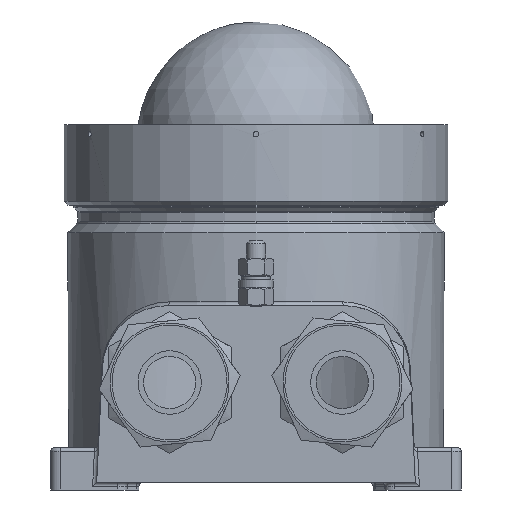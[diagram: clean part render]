
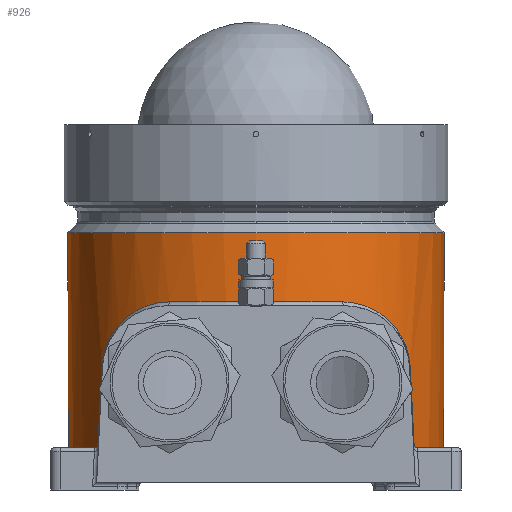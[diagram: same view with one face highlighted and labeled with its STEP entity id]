
A CAD part, left-side view. The second image highlights one B-rep face of the part: STEP entity #926.
In plain terms, the highlighted cylindrical face has radius 49 mm (diameter 98 mm), a full revolution.
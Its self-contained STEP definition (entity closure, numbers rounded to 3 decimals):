
#926=ADVANCED_FACE('',(#15641,#15643),#15645,.T.);
#15641=FACE_BOUND('',#15642,.T.);
#15642=EDGE_LOOP('',(#27664,#27665,#27666,#27667,#27668,#27669,#27670,#27671,#27672,
#27673,#27674));
#15643=FACE_OUTER_BOUND('',#15644,.T.);
#15644=EDGE_LOOP('',(#27675));
#15645=CYLINDRICAL_SURFACE('',#15646,49.);
#15646=AXIS2_PLACEMENT_3D('',#15647,#15648,#15649);
#15647=CARTESIAN_POINT('',(0.,0.,8.));
#15648=DIRECTION('',(0.,0.,1.));
#15649=DIRECTION('',(-1.,0.,0.));
#27664=ORIENTED_EDGE('',*,*,#35861,.F.);
#27665=ORIENTED_EDGE('',*,*,#35862,.T.);
#27666=ORIENTED_EDGE('',*,*,#35863,.F.);
#27667=ORIENTED_EDGE('',*,*,#35633,.F.);
#27668=ORIENTED_EDGE('',*,*,#35748,.F.);
#27669=ORIENTED_EDGE('',*,*,#35747,.F.);
#27670=ORIENTED_EDGE('',*,*,#35744,.F.);
#27671=ORIENTED_EDGE('',*,*,#35864,.F.);
#27672=ORIENTED_EDGE('',*,*,#35865,.T.);
#27673=ORIENTED_EDGE('',*,*,#35866,.F.);
#27674=ORIENTED_EDGE('',*,*,#35867,.T.);
#27675=ORIENTED_EDGE('',*,*,#35868,.T.);
#35633=EDGE_CURVE('',#39934,#39935,#39936,.T.);
#35744=EDGE_CURVE('',#40119,#40120,#40121,.T.);
#35747=EDGE_CURVE('',#40120,#40124,#40125,.F.);
#35748=EDGE_CURVE('',#40124,#39934,#40126,.F.);
#35861=EDGE_CURVE('',#40316,#40317,#40318,.F.);
#35862=EDGE_CURVE('',#40316,#40319,#40320,.T.);
#35863=EDGE_CURVE('',#39935,#40319,#40321,.F.);
#35864=EDGE_CURVE('',#40322,#40119,#40323,.F.);
#35865=EDGE_CURVE('',#40322,#40324,#40325,.T.);
#35866=EDGE_CURVE('',#40326,#40324,#40327,.F.);
#35867=EDGE_CURVE('',#40326,#40317,#40328,.T.);
#35868=EDGE_CURVE('',#40329,#40329,#40330,.F.);
#39934=VERTEX_POINT('',#47717);
#39935=VERTEX_POINT('',#47718);
#39936=B_SPLINE_CURVE_WITH_KNOTS('',3,
(#47719,#47720,#47721,#47722,#47723,#47724,#47725,#47726,#47727,#47728,#47729,#47730,
#47731,#47732,#47733,#47734,#47735,#47736,#47737,#47738,#47739),
.UNSPECIFIED.,.F.,.F.,
(4,1,1,1,1,1,1,1,1,1,1,1,1,1,1,1,1,1,4),
(0.,0.091,0.177,0.256,0.326,0.392,
0.455,0.516,0.573,0.628,0.678,
0.724,0.769,0.814,0.856,0.896,
0.938,0.972,1.),
.UNSPECIFIED.);
#40119=VERTEX_POINT('',#48641);
#40120=VERTEX_POINT('',#48642);
#40121=B_SPLINE_CURVE_WITH_KNOTS('',3,
(#48643,#48644,#48645,#48646,#48647,#48648,#48649,#48650,#48651,#48652,#48653,#48654,
#48655,#48656,#48657,#48658,#48659,#48660,#48661,#48662,#48663,#48664,#48665,#48666,
#48667,#48668,#48669),
.UNSPECIFIED.,.F.,.F.,
(4,1,1,1,1,1,1,1,1,1,1,1,1,1,1,1,1,1,1,1,1,1,1,1,4),
(0.,0.009,0.018,0.026,0.034,
0.045,0.061,0.084,0.114,0.152,
0.192,0.237,0.283,0.332,0.386,
0.442,0.504,0.569,0.637,0.708,
0.779,0.846,0.919,0.969,1.),
.UNSPECIFIED.);
#40124=VERTEX_POINT('',#48681);
#40125=CIRCLE('',#48682,49.);
#40126=CIRCLE('',#48686,49.);
#40316=VERTEX_POINT('',#49377);
#40317=VERTEX_POINT('',#49378);
#40318=CIRCLE('',#49379,49.);
#40319=VERTEX_POINT('',#49383);
#40320=CIRCLE('',#49384,49.);
#40321=(BOUNDED_CURVE()B_SPLINE_CURVE(3,
(#49388,#49389,#49390,#49391),
.UNSPECIFIED.,.F.,.F.)B_SPLINE_CURVE_WITH_KNOTS((4,4),
(0.,1.),
.UNSPECIFIED.)CURVE()GEOMETRIC_REPRESENTATION_ITEM()RATIONAL_B_SPLINE_CURVE((1.,
1.,1.,1.))REPRESENTATION_ITEM(''));
#40322=VERTEX_POINT('',#49392);
#40323=(BOUNDED_CURVE()B_SPLINE_CURVE(3,
(#49393,#49394,#49395,#49396),
.UNSPECIFIED.,.F.,.F.)B_SPLINE_CURVE_WITH_KNOTS((4,4),
(0.,1.),
.UNSPECIFIED.)CURVE()GEOMETRIC_REPRESENTATION_ITEM()RATIONAL_B_SPLINE_CURVE((1.,
1.,1.,1.))REPRESENTATION_ITEM(''));
#40324=VERTEX_POINT('',#49397);
#40325=CIRCLE('',#49398,49.);
#40326=VERTEX_POINT('',#49402);
#40327=CIRCLE('',#49403,49.);
#40328=CIRCLE('',#49407,49.);
#40329=VERTEX_POINT('',#49411);
#40330=CIRCLE('',#49412,49.);
#47717=CARTESIAN_POINT('',(-43.493,22.568,47.));
#47718=CARTESIAN_POINT('',(-28.037,40.186,29.899));
#47719=CARTESIAN_POINT('',(-43.493,22.568,47.));
#47720=CARTESIAN_POINT('',(-43.054,23.416,47.));
#47721=CARTESIAN_POINT('',(-42.151,25.037,46.879));
#47722=CARTESIAN_POINT('',(-40.74,27.264,46.397));
#47723=CARTESIAN_POINT('',(-39.377,29.19,45.722));
#47724=CARTESIAN_POINT('',(-38.089,30.846,44.927));
#47725=CARTESIAN_POINT('',(-36.872,32.289,44.051));
#47726=CARTESIAN_POINT('',(-35.702,33.576,43.095));
#47727=CARTESIAN_POINT('',(-34.586,34.721,42.076));
#47728=CARTESIAN_POINT('',(-33.534,35.737,41.006));
#47729=CARTESIAN_POINT('',(-32.569,36.617,39.915));
#47730=CARTESIAN_POINT('',(-31.705,37.365,38.827));
#47731=CARTESIAN_POINT('',(-30.93,38.009,37.734));
#47732=CARTESIAN_POINT('',(-30.23,38.566,36.618));
#47733=CARTESIAN_POINT('',(-29.605,39.048,35.461));
#47734=CARTESIAN_POINT('',(-29.076,39.443,34.293));
#47735=CARTESIAN_POINT('',(-28.639,39.76,33.094));
#47736=CARTESIAN_POINT('',(-28.322,39.986,31.927));
#47737=CARTESIAN_POINT('',(-28.127,40.124,30.85));
#47738=CARTESIAN_POINT('',(-28.057,40.172,30.193));
#47739=CARTESIAN_POINT('',(-28.037,40.186,29.899));
#48641=CARTESIAN_POINT('',(-28.037,-40.186,29.899));
#48642=CARTESIAN_POINT('',(-43.493,-22.568,47.));
#48643=CARTESIAN_POINT('',(-28.037,-40.186,29.899));
#48644=CARTESIAN_POINT('',(-28.047,-40.179,29.999));
#48645=CARTESIAN_POINT('',(-28.064,-40.167,30.187));
#48646=CARTESIAN_POINT('',(-28.09,-40.149,30.458));
#48647=CARTESIAN_POINT('',(-28.119,-40.129,30.719));
#48648=CARTESIAN_POINT('',(-28.161,-40.099,31.006));
#48649=CARTESIAN_POINT('',(-28.222,-40.056,31.369));
#48650=CARTESIAN_POINT('',(-28.325,-39.984,31.883));
#48651=CARTESIAN_POINT('',(-28.497,-39.862,32.583));
#48652=CARTESIAN_POINT('',(-28.776,-39.661,33.487));
#48653=CARTESIAN_POINT('',(-29.175,-39.369,34.525));
#48654=CARTESIAN_POINT('',(-29.697,-38.978,35.642));
#48655=CARTESIAN_POINT('',(-30.326,-38.491,36.781));
#48656=CARTESIAN_POINT('',(-31.054,-37.908,37.92));
#48657=CARTESIAN_POINT('',(-31.881,-37.216,39.06));
#48658=CARTESIAN_POINT('',(-32.802,-36.409,40.191));
#48659=CARTESIAN_POINT('',(-33.828,-35.46,41.318));
#48660=CARTESIAN_POINT('',(-34.946,-34.361,42.419));
#48661=CARTESIAN_POINT('',(-36.15,-33.096,43.477));
#48662=CARTESIAN_POINT('',(-37.405,-31.673,44.451));
#48663=CARTESIAN_POINT('',(-38.679,-30.106,45.309));
#48664=CARTESIAN_POINT('',(-39.916,-28.446,46.005));
#48665=CARTESIAN_POINT('',(-41.124,-26.672,46.54));
#48666=CARTESIAN_POINT('',(-42.158,-24.999,46.856));
#48667=CARTESIAN_POINT('',(-42.947,-23.603,46.981));
#48668=CARTESIAN_POINT('',(-43.344,-22.855,47.));
#48669=CARTESIAN_POINT('',(-43.493,-22.568,47.));
#48681=CARTESIAN_POINT('',(-49.,0.,47.));
#48682=AXIS2_PLACEMENT_3D('',#48683,#48684,#48685);
#48683=CARTESIAN_POINT('',(0.,0.,47.));
#48684=DIRECTION('',(0.,0.,1.));
#48685=DIRECTION('',(-1.,0.,0.));
#48686=AXIS2_PLACEMENT_3D('',#48687,#48688,#48689);
#48687=CARTESIAN_POINT('',(0.,0.,47.));
#48688=DIRECTION('',(0.,0.,1.));
#48689=DIRECTION('',(-0.888,0.461,0.));
#49377=CARTESIAN_POINT('',(27.695,40.423,9.));
#49378=CARTESIAN_POINT('',(40.423,27.695,9.));
#49379=AXIS2_PLACEMENT_3D('',#49380,#49381,#49382);
#49380=CARTESIAN_POINT('',(0.,0.,9.));
#49381=DIRECTION('',(0.,0.,1.));
#49382=DIRECTION('',(0.825,0.565,0.));
#49383=CARTESIAN_POINT('',(-26.509,41.21,9.));
#49384=AXIS2_PLACEMENT_3D('',#49385,#49386,#49387);
#49385=CARTESIAN_POINT('',(0.,0.,9.));
#49386=DIRECTION('',(0.,0.,1.));
#49387=DIRECTION('',(0.565,0.825,0.));
#49388=CARTESIAN_POINT('',(-26.509,41.21,9.));
#49389=CARTESIAN_POINT('',(-27.025,40.878,15.771));
#49390=CARTESIAN_POINT('',(-27.534,40.537,22.738));
#49391=CARTESIAN_POINT('',(-28.037,40.186,29.899));
#49392=CARTESIAN_POINT('',(-26.509,-41.21,9.));
#49393=CARTESIAN_POINT('',(-28.037,-40.186,29.899));
#49394=CARTESIAN_POINT('',(-27.534,-40.537,22.738));
#49395=CARTESIAN_POINT('',(-27.025,-40.878,15.771));
#49396=CARTESIAN_POINT('',(-26.509,-41.21,9.));
#49397=CARTESIAN_POINT('',(27.695,-40.423,9.));
#49398=AXIS2_PLACEMENT_3D('',#49399,#49400,#49401);
#49399=CARTESIAN_POINT('',(0.,0.,9.));
#49400=DIRECTION('',(0.,0.,1.));
#49401=DIRECTION('',(-0.541,-0.841,0.));
#49402=CARTESIAN_POINT('',(40.423,-27.695,9.));
#49403=AXIS2_PLACEMENT_3D('',#49404,#49405,#49406);
#49404=CARTESIAN_POINT('',(0.,0.,9.));
#49405=DIRECTION('',(0.,0.,1.));
#49406=DIRECTION('',(0.565,-0.825,0.));
#49407=AXIS2_PLACEMENT_3D('',#49408,#49409,#49410);
#49408=CARTESIAN_POINT('',(0.,0.,9.));
#49409=DIRECTION('',(0.,0.,1.));
#49410=DIRECTION('',(0.825,-0.565,0.));
#49411=CARTESIAN_POINT('',(-49.,0.,65.));
#49412=AXIS2_PLACEMENT_3D('',#49413,#49414,#49415);
#49413=CARTESIAN_POINT('',(0.,0.,65.));
#49414=DIRECTION('',(0.,0.,1.));
#49415=DIRECTION('',(-1.,0.,0.));
